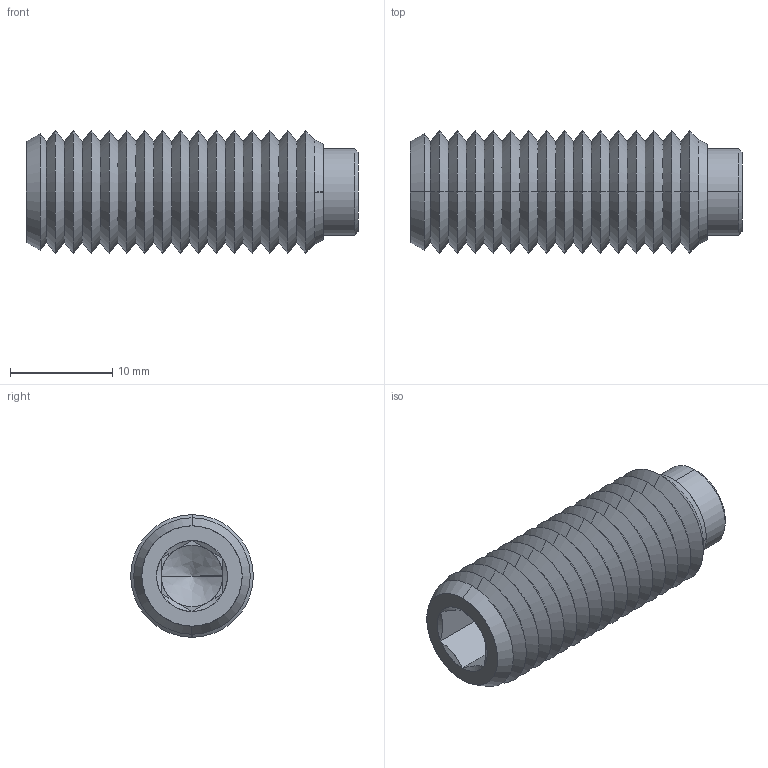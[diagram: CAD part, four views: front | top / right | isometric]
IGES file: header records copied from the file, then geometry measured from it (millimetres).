
Start section: SolidWorks IGES file using analytic representation for surfaces
Global section: file name: C:\Users\IanO\Desktop\P0120_v2_230406\P0120_v2_20230506_IGES\P0120.120-032.igs; native system: SolidWorks 2019; preprocessor: SolidWorks 2019; author: IanO; date: 230406.142608; units: millimetre
Bounding box: 32.5 x 12 x 12 mm (x, y, z)
Surface area: 2201.6 mm2 (no closed solid volume)
Topology: 0 solids, 0 shells, 97 faces, 646 edges, 644 vertices
Faces by surface type: revolution 80, bspline 17
